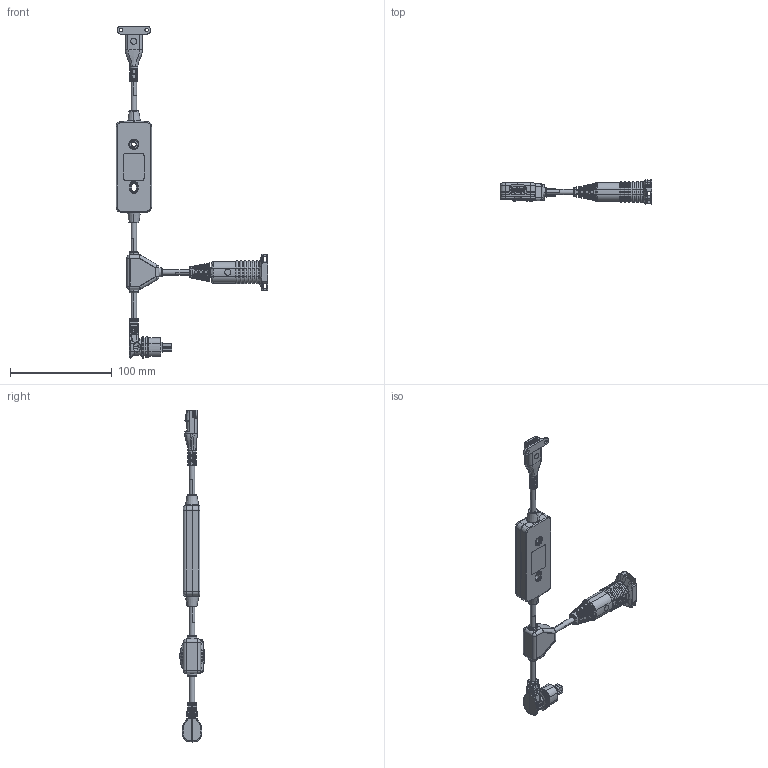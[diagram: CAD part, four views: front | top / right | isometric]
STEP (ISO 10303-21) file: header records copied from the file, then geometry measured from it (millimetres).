
FILE_DESCRIPTION((''),'2;1');
FILE_NAME('USBAM_SOLID','2022-03-09T10:44:23',('usmmi'),(''),'CREO PARAMETRIC BY PTC INC, 2020454','CREO PARAMETRIC BY PTC INC, 2020454','');
FILE_SCHEMA(('CONFIG_CONTROL_DESIGN'));
Products named in the file (1): USBAM_SOLID
Bounding box: 149.17 x 23.96 x 325.82 mm (x, y, z)
Volume: 99218 mm3; surface area: 38233.5 mm2
Topology: 1 solids, 8 shells, 3092 faces, 7739 edges, 4678 vertices
Faces by surface type: plane 911, cylinder 910, torus 678, bspline 380, cone 162, sphere 31, extrusion 18, revolution 2
Entity records: 114078 total; most frequent: CARTESIAN_POINT 43174, ORIENTED_EDGE 15416, DIRECTION 14291, EDGE_CURVE 7708, AXIS2_PLACEMENT_3D 5521, VERTEX_POINT 4678, VECTOR 3247, LINE 3229
